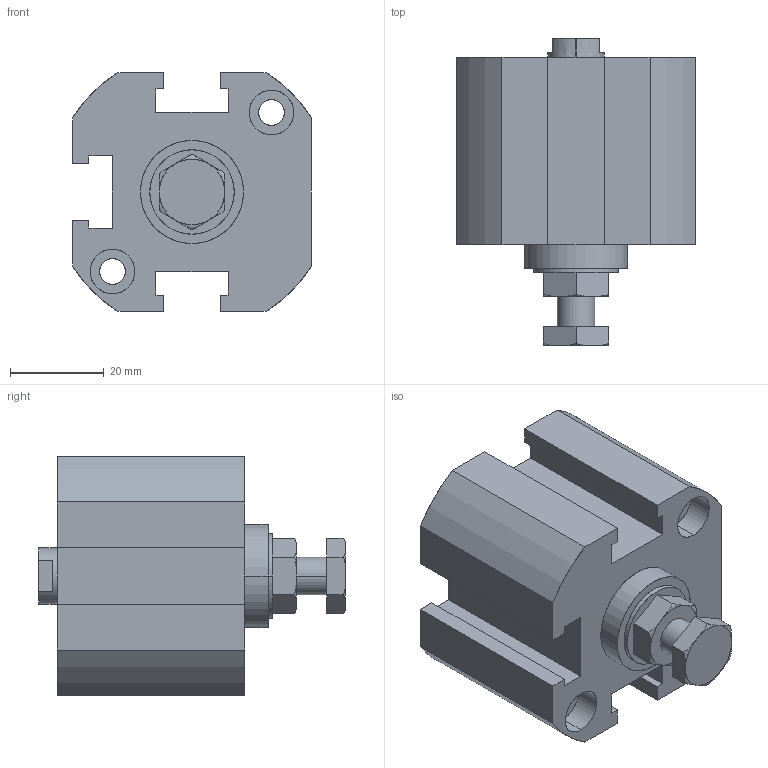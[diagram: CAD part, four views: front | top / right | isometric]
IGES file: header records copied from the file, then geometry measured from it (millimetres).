
Start section: SolidWorks IGES file using analytic representation for surfaces
Global section: file name: C:\Users\Toshiba\Desktop\XGA2-32-10.IGS; native system: SolidWorks 2014; preprocessor: SolidWorks 2014; author: Toshiba; date: 160524.104014; units: millimetre
Bounding box: 51 x 65.5 x 51 mm (x, y, z)
Surface area: 19203.6 mm2 (no closed solid volume)
Topology: 0 solids, 0 shells, 134 faces, 2162 edges, 2156 vertices
Faces by surface type: bspline 76, revolution 58
